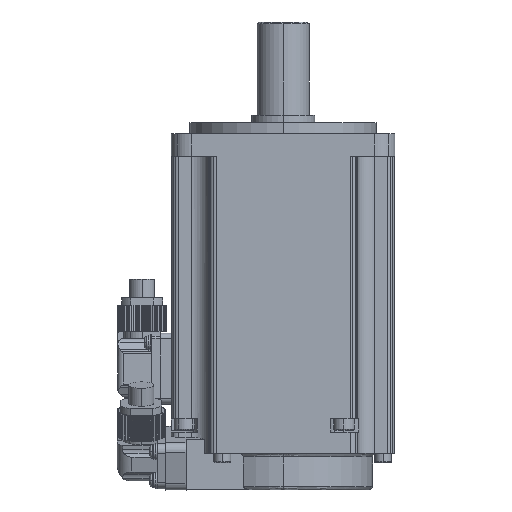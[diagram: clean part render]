
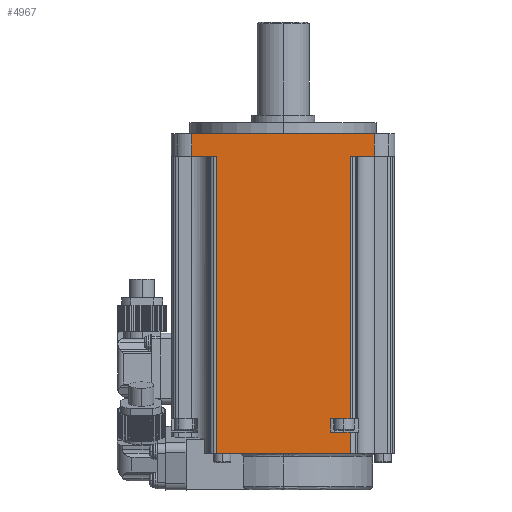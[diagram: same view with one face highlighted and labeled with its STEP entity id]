
A CAD part, left-side view. The second image highlights one B-rep face of the part: STEP entity #4967.
In plain terms, the highlighted planar face has unit normal (-1, 0, 0).
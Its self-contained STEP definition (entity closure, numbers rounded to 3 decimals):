
#98=CARTESIAN_POINT('',(-30.,24.5,-6.));
#99=VERTEX_POINT('',#98);
#107=CARTESIAN_POINT('',(-30.,24.5,0.0));
#108=VERTEX_POINT('',#107);
#109=CARTESIAN_POINT('',(-30.,24.5,0.0));
#110=DIRECTION('',(0.0,0.0,-1.0));
#111=VECTOR('',#110,6.);
#112=LINE('',#109,#111);
#113=EDGE_CURVE('',#108,#99,#112,.T.);
#948=CARTESIAN_POINT('',(-30.,17.95,-85.7));
#949=VERTEX_POINT('',#948);
#957=CARTESIAN_POINT('',(-30.,17.95,-6.));
#958=VERTEX_POINT('',#957);
#959=CARTESIAN_POINT('',(-30.,17.95,-6.));
#960=DIRECTION('',(0.0,0.0,-1.0));
#961=VECTOR('',#960,79.7);
#962=LINE('',#959,#961);
#963=EDGE_CURVE('',#958,#949,#962,.T.);
#3350=CARTESIAN_POINT('',(-30.0,-17.95,-6.));
#3351=VERTEX_POINT('',#3350);
#3359=CARTESIAN_POINT('',(-30.,-17.95,-76.5));
#3360=VERTEX_POINT('',#3359);
#3361=CARTESIAN_POINT('',(-30.0,-17.95,-6.));
#3362=DIRECTION('',(0.0,0.0,-1.0));
#3363=VECTOR('',#3362,70.5);
#3364=LINE('',#3361,#3363);
#3365=EDGE_CURVE('',#3351,#3360,#3364,.T.);
#4705=CARTESIAN_POINT('',(-30.,-24.5,-6.));
#4706=VERTEX_POINT('',#4705);
#4714=CARTESIAN_POINT('',(-30.0,-17.95,-6.));
#4715=DIRECTION('',(0.0,-1.0,0.0));
#4716=VECTOR('',#4715,6.55);
#4717=LINE('',#4714,#4716);
#4718=EDGE_CURVE('',#3351,#4706,#4717,.T.);
#4898=CARTESIAN_POINT('',(-30.,-26.95,-89.985));
#4899=DIRECTION('',(-1.0,0.0,0.0));
#4900=DIRECTION('',(0.0,0.0,1.0));
#4901=AXIS2_PLACEMENT_3D('',#4898,#4899,#4900);
#4902=PLANE('',#4901);
#4903=ORIENTED_EDGE('',*,*,#3365,.F.);
#4904=ORIENTED_EDGE('',*,*,#4718,.T.);
#4905=CARTESIAN_POINT('',(-30.,-24.5,0.0));
#4906=VERTEX_POINT('',#4905);
#4907=CARTESIAN_POINT('',(-30.,-24.5,0.0));
#4908=DIRECTION('',(0.0,0.0,-1.0));
#4909=VECTOR('',#4908,6.);
#4910=LINE('',#4907,#4909);
#4911=EDGE_CURVE('',#4906,#4706,#4910,.T.);
#4912=ORIENTED_EDGE('',*,*,#4911,.F.);
#4913=CARTESIAN_POINT('',(-30.,24.5,0.0));
#4914=DIRECTION('',(0.0,-1.0,0.0));
#4915=VECTOR('',#4914,49.0);
#4916=LINE('',#4913,#4915);
#4917=EDGE_CURVE('',#108,#4906,#4916,.T.);
#4918=ORIENTED_EDGE('',*,*,#4917,.F.);
#4919=ORIENTED_EDGE('',*,*,#113,.T.);
#4920=CARTESIAN_POINT('',(-30.,24.5,-6.));
#4921=DIRECTION('',(0.0,-1.0,0.0));
#4922=VECTOR('',#4921,6.55);
#4923=LINE('',#4920,#4922);
#4924=EDGE_CURVE('',#99,#958,#4923,.T.);
#4925=ORIENTED_EDGE('',*,*,#4924,.T.);
#4926=ORIENTED_EDGE('',*,*,#963,.T.);
#4927=CARTESIAN_POINT('',(-30.,-17.95,-85.7));
#4928=VERTEX_POINT('',#4927);
#4929=CARTESIAN_POINT('',(-30.,17.95,-85.7));
#4930=DIRECTION('',(0.0,-1.0,0.0));
#4931=VECTOR('',#4930,35.9);
#4932=LINE('',#4929,#4931);
#4933=EDGE_CURVE('',#949,#4928,#4932,.T.);
#4934=ORIENTED_EDGE('',*,*,#4933,.T.);
#4935=CARTESIAN_POINT('',(-30.,-17.95,-80.));
#4936=VERTEX_POINT('',#4935);
#4937=CARTESIAN_POINT('',(-30.,-17.95,-80.));
#4938=DIRECTION('',(0.0,0.0,-1.0));
#4939=VECTOR('',#4938,5.7);
#4940=LINE('',#4937,#4939);
#4941=EDGE_CURVE('',#4936,#4928,#4940,.T.);
#4942=ORIENTED_EDGE('',*,*,#4941,.F.);
#4943=CARTESIAN_POINT('',(-30.,-12.8,-80.));
#4944=VERTEX_POINT('',#4943);
#4945=CARTESIAN_POINT('',(-30.,-17.95,-80.));
#4946=DIRECTION('',(0.0,1.0,0.0));
#4947=VECTOR('',#4946,5.15);
#4948=LINE('',#4945,#4947);
#4949=EDGE_CURVE('',#4936,#4944,#4948,.T.);
#4950=ORIENTED_EDGE('',*,*,#4949,.T.);
#4951=CARTESIAN_POINT('',(-30.,-12.8,-76.5));
#4952=VERTEX_POINT('',#4951);
#4953=CARTESIAN_POINT('',(-30.,-12.8,-80.));
#4954=DIRECTION('',(0.0,0.0,1.0));
#4955=VECTOR('',#4954,3.5);
#4956=LINE('',#4953,#4955);
#4957=EDGE_CURVE('',#4944,#4952,#4956,.T.);
#4958=ORIENTED_EDGE('',*,*,#4957,.T.);
#4959=CARTESIAN_POINT('',(-30.,-12.8,-76.5));
#4960=DIRECTION('',(0.0,-1.0,0.0));
#4961=VECTOR('',#4960,5.15);
#4962=LINE('',#4959,#4961);
#4963=EDGE_CURVE('',#4952,#3360,#4962,.T.);
#4964=ORIENTED_EDGE('',*,*,#4963,.T.);
#4965=EDGE_LOOP('',(#4903,#4904,#4912,#4918,#4919,#4925,#4926,#4934,#4942,#4950,#4958,#4964));
#4966=FACE_OUTER_BOUND('',#4965,.T.);
#4967=ADVANCED_FACE('',(#4966),#4902,.T.);
